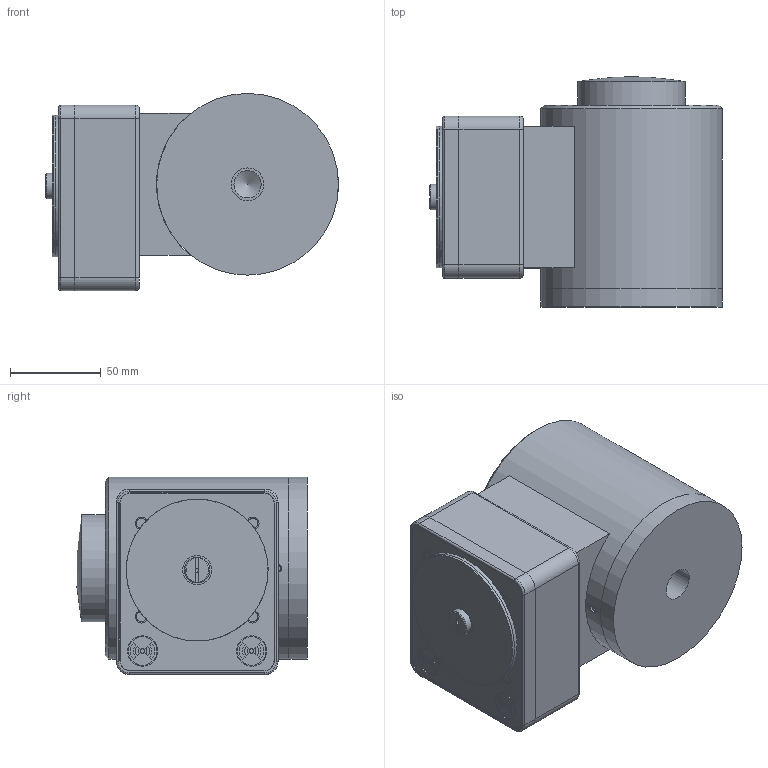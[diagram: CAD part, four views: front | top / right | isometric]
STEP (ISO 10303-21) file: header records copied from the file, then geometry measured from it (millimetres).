
FILE_DESCRIPTION(/* description */ (''),/* implementation_level */ '2;1');
FILE_NAME(/* name */ 'WNI25TC.stp',/* time_stamp */ '2025-01-02T11:44:36Z',/* author */ ('Achacko'),/* organization */ (''),/* preprocessor_version */ 'ST-DEVELOPER v20',/* originating_system */ 'Autodesk Inventor 2025',/* authorisation */ '');
FILE_SCHEMA (('AUTOMOTIVE_DESIGN { 1 0 10303 214 3 1 1 }'));
Length unit declared in the file: millimetre
Products named in the file (1): SU6014_Simplify_1
Bounding box: 161.12 x 126.68 x 108.5 mm (x, y, z)
Volume: 1391296.8 mm3; surface area: 135962.8 mm2
Topology: 1 solids, 13 shells, 424 faces, 987 edges, 615 vertices
Faces by surface type: plane 199, cylinder 153, cone 35, torus 28, bspline 8, sphere 1
Full cylindrical faces by diameter (mm): 2.1 x1, 2.5 x2, 3.242 x4, 4 x5, 4.1 x2, 4.5 x2, 5 x1, 5.54 x4, 8 x3, 8.1 x1, 10 x1, 11.5 x1, 12 x3, 14 x1, 15 x2, 15.7 x2, 16 x1, 16.7 x2, 18 x1, 40 x1, 59 x1, 70.2 x1, 78 x3, 84.4 x2, 86.4 x2, 89 x2, 90 x3, 90.5 x2, 91 x1, 100 x2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
Entity records: 13600 total; most frequent: CARTESIAN_POINT 3124, DIRECTION 2159, ORIENTED_EDGE 1978, EDGE_CURVE 989, AXIS2_PLACEMENT_3D 842, VERTEX_POINT 615, EDGE_LOOP 500, LINE 475
